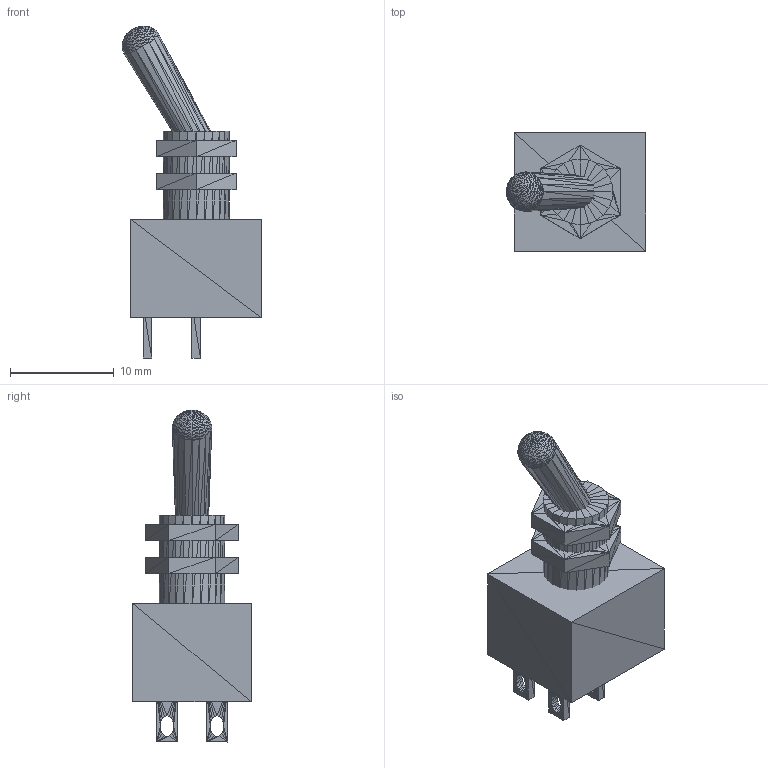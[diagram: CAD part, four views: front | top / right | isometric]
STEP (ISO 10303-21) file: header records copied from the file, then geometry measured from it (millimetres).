
FILE_DESCRIPTION(('HOOPS Exchange Step'),'2;1');
FILE_NAME('***.stp');
FILE_SCHEMA( ('AP242_MANAGED_MODEL_BASED_3D_ENGINEERING_MIM_LF {1 0 10303 442 1 1 4 }') );
Length unit declared in the file: inch
Products named in the file (10): SWSMDPST4P_TOG_2; SWSMDPST4P_TOG_3; SWSMDPST4P_TOG_4; SWSMDPST4P_TOG_5; SWSMDPST4P_TOG_6; SWSMDPST4P_TOG_7; SWSMDPST4P_TOG_8; SWSMDPST4P_TOG_9; SWSMDPST4P_TOG_10; SWSMDPST4P_TOG
Assembly tree (9 placements, depth 2):
  SWSMDPST4P_TOG
    SWSMDPST4P_TOG_2
    SWSMDPST4P_TOG_3
    SWSMDPST4P_TOG_4
    SWSMDPST4P_TOG_5
    SWSMDPST4P_TOG_6
    SWSMDPST4P_TOG_7
    SWSMDPST4P_TOG_8
    SWSMDPST4P_TOG_9
    SWSMDPST4P_TOG_10
Bounding box: 13.5 x 11.43 x 32.05 mm (x, y, z)
Volume: 1409.8 mm3; surface area: 2211.4 mm2
Topology: 5 solids, 1645 shells, 1988 faces, 1736 edges, 576 vertices
Faces by surface type: plane 1988
Entity records: 32120 total; most frequent: ORIENTED_EDGE 5964, DIRECTION 5752, CARTESIAN_POINT 4320, AXIS2_PLACEMENT_3D 2008, PLANE 1988, EDGE_LOOP 1988, FACE_BOUND 1988, ADVANCED_FACE 1988
